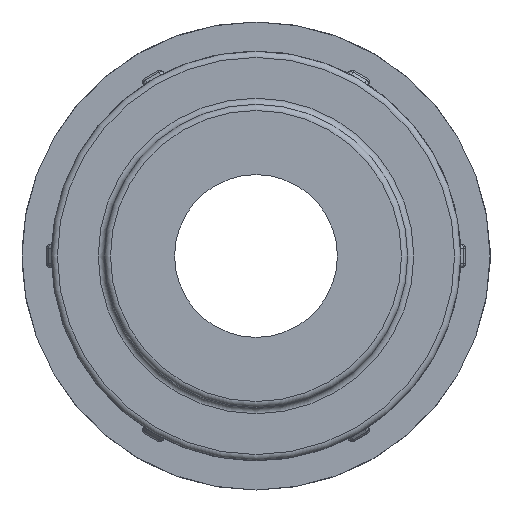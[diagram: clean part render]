
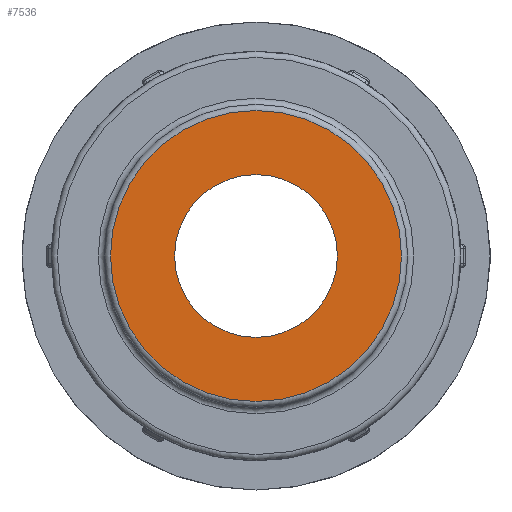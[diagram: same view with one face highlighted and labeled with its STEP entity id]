
A CAD part, left-side view. The second image highlights one B-rep face of the part: STEP entity #7536.
In plain terms, the highlighted planar face has unit normal (-1, 0, 0).
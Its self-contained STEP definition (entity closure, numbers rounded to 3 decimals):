
#20=FACE_BOUND('',#1406,.T.);
#283=PLANE('',#8448);
#931=FACE_OUTER_BOUND('',#1405,.T.);
#1405=EDGE_LOOP('',(#6787));
#1406=EDGE_LOOP('',(#6788));
#2828=CIRCLE('',#8444,28.607);
#2831=CIRCLE('',#8449,16.);
#3513=VERTEX_POINT('',#14515);
#3516=VERTEX_POINT('',#14523);
#4630=EDGE_CURVE('',#3513,#3513,#2828,.T.);
#4633=EDGE_CURVE('',#3516,#3516,#2831,.T.);
#6787=ORIENTED_EDGE('',*,*,#4630,.F.);
#6788=ORIENTED_EDGE('',*,*,#4633,.T.);
#7536=ADVANCED_FACE('',(#931,#20),#283,.T.);
#8444=AXIS2_PLACEMENT_3D('',#14516,#10708,#10709);
#8448=AXIS2_PLACEMENT_3D('',#14522,#10716,#10717);
#8449=AXIS2_PLACEMENT_3D('',#14524,#10718,#10719);
#10708=DIRECTION('center_axis',(1.,0.,0.));
#10709=DIRECTION('ref_axis',(0.,-1.,0.));
#10716=DIRECTION('center_axis',(-1.,0.,0.));
#10717=DIRECTION('ref_axis',(0.,0.,1.));
#10718=DIRECTION('center_axis',(1.,0.,0.));
#10719=DIRECTION('ref_axis',(0.,0.,-1.));
#14515=CARTESIAN_POINT('',(-29.9,28.607,0.));
#14516=CARTESIAN_POINT('Origin',(-29.9,0.,0.));
#14522=CARTESIAN_POINT('Origin',(-29.9,29.807,0.));
#14523=CARTESIAN_POINT('',(-29.9,16.,0.));
#14524=CARTESIAN_POINT('Origin',(-29.9,0.,0.));
